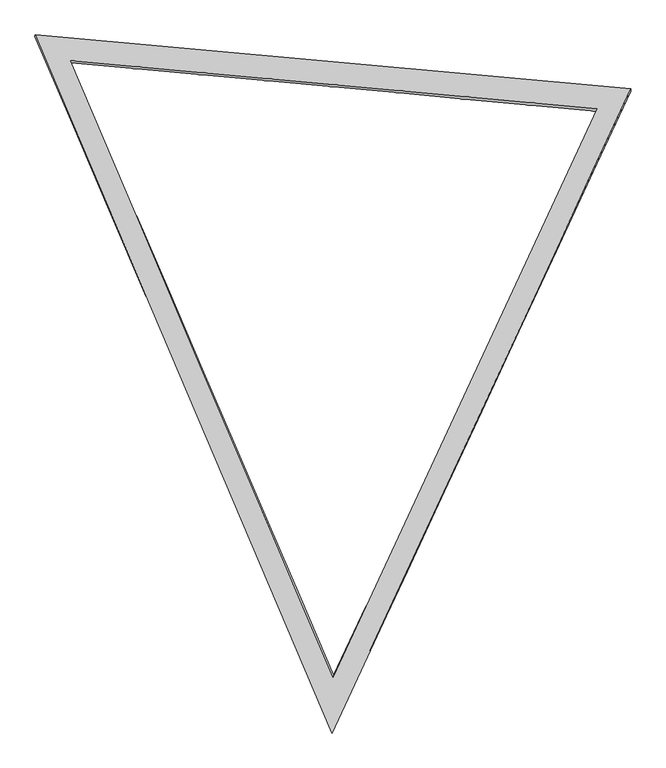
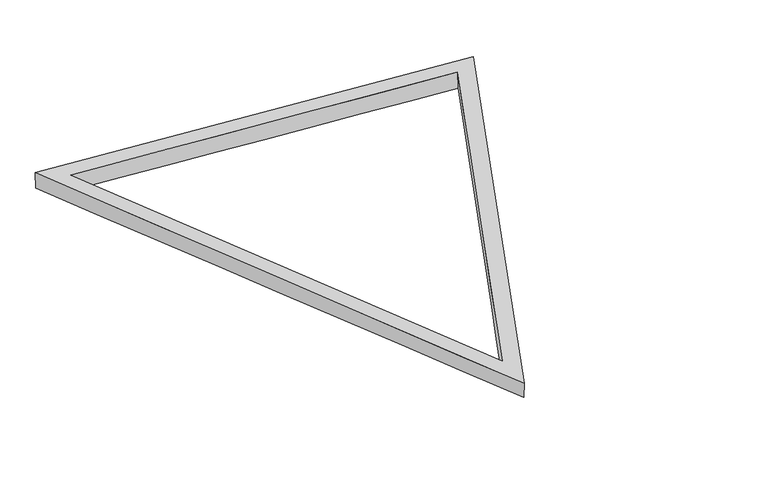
"""IFC4 building model written with IfcOpenShell, lengths in millimetres: plate geometry."""

import ifcopenshell
import ifcopenshell.guid

model = None  # the IFC model being written
_history = None  # IfcOwnerHistory: only IFC2X3 demands one
_inside = {}  # id of a spatial element -> (the spatial element, [elements in it])
_under = {}  # id of a project, library or spatial element -> (it, [spatial elements below it])
_declared = {}  # id of a project -> (the project, [libraries it declares])
_typed = {}  # id of a type object -> (the type object, [elements of that type])
_made_of = {}  # id of a material, layer set ... -> (it, [elements and type objects made of it])


def new_model(schema):
    """Start an empty IFC model of exactly this schema.

    Asked for "IFC4X3", IfcOpenShell would pick the latest addendum, in which some entities
    have other attributes; the version numbers below select the first issue.
    IFC2X3 requires an IfcOwnerHistory on every rooted entity: one is made here for all.
    """
    global model, _history
    if schema == "IFC4X3":
        model = ifcopenshell.file(schema_version=(4, 3, 0, 0))
    else:
        model = ifcopenshell.file(schema=schema)
    _inside.clear()
    _under.clear()
    _declared.clear()
    _typed.clear()
    _made_of.clear()
    _history = None
    if model.schema == "IFC2X3":
        org = make("IfcOrganization", Name="unknown")
        user = make(
            "IfcPersonAndOrganization",
            ThePerson=make("IfcPerson", FamilyName="unknown"),
            TheOrganization=org,
        )
        app = make(
            "IfcApplication",
            ApplicationDeveloper=org,
            Version="unknown",
            ApplicationFullName="unknown",
            ApplicationIdentifier="unknown",
        )
        _history = make(
            "IfcOwnerHistory",
            OwningUser=user,
            OwningApplication=app,
            ChangeAction="ADDED",
            CreationDate=0,
        )
    return model


def make(cls, **values):
    """One entity of the class cls with the attributes given. An attribute that is None is left unset."""
    return model.create_entity(
        cls, **{name: value for name, value in values.items() if value is not None}
    )


def rooted(cls, **values):
    """An entity with a GlobalId (a new one), such as an element, a storey or a relation."""
    return make(cls, GlobalId=ifcopenshell.guid.new(), OwnerHistory=_history, **values)


def si_unit(unit_type, name, prefix=None):
    """IfcSIUnit, for example si_unit("LENGTHUNIT", "METRE", prefix="MILLI")."""
    return make("IfcSIUnit", UnitType=unit_type, Prefix=prefix, Name=name)


def assignment(units):
    """IfcUnitAssignment: the units of a project."""
    return None if units is None else make("IfcUnitAssignment", Units=units)


def point(xyz):
    """IfcCartesianPoint."""
    return None if xyz is None else make("IfcCartesianPoint", Coordinates=xyz)


def direction(xyz):
    """IfcDirection."""
    return None if xyz is None else make("IfcDirection", DirectionRatios=xyz)


def frame(location, z_axis=None, x_axis=None):
    """IfcAxis2Placement3D, a coordinate frame: its origin and axes. An axis left out is left unset."""
    return make(
        "IfcAxis2Placement3D",
        Location=point(location),
        Axis=direction(z_axis),
        RefDirection=direction(x_axis),
    )


def origin():
    """The frame at (0, 0, 0) with its axes left unset."""
    return frame((0.0, 0.0, 0.0))


def place(relative_to, where):
    """IfcLocalPlacement: puts the frame where relative to a parent placement (None: the world)."""
    return make(
        "IfcLocalPlacement", PlacementRelTo=relative_to, RelativePlacement=where
    )


def context(
    kind, dimensions, precision=None, world=None, true_north=None, identifier=None
):
    """IfcGeometricRepresentationContext, for example the 3D "Model" context."""
    return make(
        "IfcGeometricRepresentationContext",
        ContextIdentifier=identifier,
        ContextType=kind,
        CoordinateSpaceDimension=dimensions,
        Precision=precision,
        WorldCoordinateSystem=world,
        TrueNorth=true_north,
    )


def project(units=None, contexts=None):
    """IfcProject with its units and contexts."""
    return rooted(
        "IfcProject",
        Name="project",
        RepresentationContexts=contexts,
        UnitsInContext=assignment(units),
    )


def spatial(cls, under=None, at=None, **own):
    """A site, building, storey or space (cls), placed at a placement, below another one or the project."""
    s = rooted(cls, ObjectPlacement=at, **own)
    if under is not None:
        _under.setdefault(under.id(), (under, []))[1].append(s)
    return s


def shape(context_of_items, identifier, shape_type, items):
    """IfcShapeRepresentation: the items that make up one representation, for example the "Body"."""
    return make(
        "IfcShapeRepresentation",
        ContextOfItems=context_of_items,
        RepresentationIdentifier=identifier,
        RepresentationType=shape_type,
        Items=items,
    )


def source(mapping_origin, context_of_items, identifier, shape_type, items):
    """IfcRepresentationMap: a shape defined once, which mapped items show again and again."""
    return make(
        "IfcRepresentationMap",
        MappingOrigin=mapping_origin,
        MappedRepresentation=shape(context_of_items, identifier, shape_type, items),
    )


def transform(
    local_origin,
    x_axis=None,
    y_axis=None,
    z_axis=None,
    scale=None,
    scale2=None,
    scale3=None,
    uniform=True,
):
    """IfcCartesianTransformationOperator3D, or its non-uniform kind. x_axis, y_axis, z_axis: its Axis1, 2, 3."""
    if uniform:
        return make(
            "IfcCartesianTransformationOperator3D",
            Axis1=direction(x_axis),
            Axis2=direction(y_axis),
            LocalOrigin=point(local_origin),
            Scale=scale,
            Axis3=direction(z_axis),
        )
    return make(
        "IfcCartesianTransformationOperator3DnonUniform",
        Axis1=direction(x_axis),
        Axis2=direction(y_axis),
        LocalOrigin=point(local_origin),
        Scale=scale,
        Axis3=direction(z_axis),
        Scale2=scale2,
        Scale3=scale3,
    )


def mapped(mapping_source, mapping_target):
    """IfcMappedItem: shows the shape of a source again, moved by a transform."""
    return make(
        "IfcMappedItem", MappingSource=mapping_source, MappingTarget=mapping_target
    )


def made_of(thing, what):
    """Note that an element or type object is made of a material, layer set ...; save() writes the relation."""
    if what is not None:
        _made_of.setdefault(what.id(), (what, []))[1].append(thing)
    return thing


def element(
    cls,
    number,
    at=None,
    inside=None,
    cuts=None,
    type_object=None,
    material=None,
    context=None,
    identifier="Body",
    shape_type=None,
    held_by="IfcProductDefinitionShape",
    body=None,
    shapes=None,
    **own,
):
    """One element of the class cls, such as IfcWall. Its Tag is "e" and its number.

    at: its placement. inside: the storey or other place that contains it. cuts: it is an
    opening in that element (IfcRelVoidsElement). A single representation is given by context,
    identifier, shape_type and body (its items); several are given by shapes. held_by: the class
    of the entity that holds the representations. save() writes the other relations.
    """
    e = rooted(cls, Tag="e%d" % number, ObjectPlacement=at, **own)
    if body is not None:
        shapes = [shape(context, identifier, shape_type, body)]
    if shapes is not None:
        e.Representation = make(held_by, Representations=shapes)
    if inside is not None:
        _inside.setdefault(inside.id(), (inside, []))[1].append(e)
    if cuts is not None:
        rooted(
            "IfcRelVoidsElement", RelatingBuildingElement=cuts, RelatedOpeningElement=e
        )
    if type_object is not None:
        _typed.setdefault(type_object.id(), (type_object, []))[1].append(e)
    return made_of(e, material)


def aggregate(whole, parts):
    """IfcRelAggregates: a whole, such as a stair, and the parts it consists of."""
    return rooted("IfcRelAggregates", RelatingObject=whole, RelatedObjects=parts)


def save(model, path):
    """Write the relations noted so far, then the file.

    IfcRelAggregates (storeys below a building ...), IfcRelContainedInSpatialStructure (elements
    in a storey), IfcRelDefinesByType, IfcRelAssociatesMaterial and IfcRelDeclares: one each for
    every whole, place, type object, material and project.
    """
    for whole, parts in _under.values():
        aggregate(whole, parts)
    for where, things in _inside.values():
        rooted(
            "IfcRelContainedInSpatialStructure",
            RelatedElements=things,
            RelatingStructure=where,
        )
    for kind, things in _typed.values():
        rooted("IfcRelDefinesByType", RelatedObjects=things, RelatingType=kind)
    for what, things in _made_of.values():
        rooted("IfcRelAssociatesMaterial", RelatedObjects=things, RelatingMaterial=what)
    for by, libraries in _declared.values():
        rooted("IfcRelDeclares", RelatingContext=by, RelatedDefinitions=libraries)
    model.write(path)


def plane_surface(at):
    """IfcPlane: the flat surface through the origin of the frame at, square to its z axis."""
    return make("IfcPlane", Position=at)


def spline_surface(u_degree, v_degree, points, u_multiplicities, v_multiplicities, u_knots, v_knots, weights=None):
    """IfcBSplineSurfaceWithKnots; with weights, IfcRationalBSplineSurfaceWithKnots. points: one row for each step in u."""
    own = dict(
        UDegree=u_degree,
        VDegree=v_degree,
        ControlPointsList=[[point(p) for p in row] for row in points],
        SurfaceForm="UNSPECIFIED",
        UClosed=False,
        VClosed=False,
        SelfIntersect=False,
        UMultiplicities=u_multiplicities,
        VMultiplicities=v_multiplicities,
        UKnots=u_knots,
        VKnots=v_knots,
        KnotSpec="UNSPECIFIED",
    )
    if weights is None:
        return make("IfcBSplineSurfaceWithKnots", **own)
    return make("IfcRationalBSplineSurfaceWithKnots", WeightsData=weights, **own)


def advanced_brep(points, edges, surfaces, faces):
    """IfcAdvancedBrep: a solid bounded by faces that lie on surfaces and meet in shared edges.

    An edge is (start, end): straight between two places in points (the first is 0);
    or (start, end, curve); or (start, end, curve, False) where it runs against its curve.
    A face is (place in surfaces, loops), or (place, loops, False) where it looks against
    its surface's normal. A loop lists edges by number (the first is 1), with a minus sign
    where the edge is run from its end to its start. The first loop is the outer one.
    """
    corners = [point(p) for p in points]
    vertices = [make("IfcVertexPoint", VertexGeometry=c) for c in corners]
    made = []
    for start, end, *more in edges:
        made.append(
            make(
                "IfcEdgeCurve",
                EdgeStart=vertices[start],
                EdgeEnd=vertices[end],
                EdgeGeometry=more[0] if more else make("IfcPolyline", Points=[corners[start], corners[end]]),
                SameSense=more[1] if len(more) > 1 else True,
            )
        )
    hull = []
    for where, loops, *sense in faces:
        bounds = []
        for j, loop in enumerate(loops):
            ring = [make("IfcOrientedEdge", EdgeElement=made[abs(k) - 1], Orientation=k > 0) for k in loop]
            bounds.append(
                make(
                    "IfcFaceOuterBound" if j == 0 else "IfcFaceBound",
                    Bound=make("IfcEdgeLoop", EdgeList=ring),
                    Orientation=True,
                )
            )
        hull.append(make("IfcAdvancedFace", Bounds=bounds, FaceSurface=surfaces[where], SameSense=sense[0] if sense else True))
    return make("IfcAdvancedBrep", Outer=make("IfcClosedShell", CfsFaces=hull))


def plate_5d799b91(model_context):
    return source(origin(), model_context, "Body", "AdvancedBrep", [
        advanced_brep(
        [(3753.251921, 7078.7811091, 0.0), (3753.0589044, 7093.2384914, 202.6731801), (6096.4615528, 1586.4831755, 202.094413), (6103.649809, 1603.8801866, 0.0), (8456.3264835, 6666.8171285, 202.0053449), (8454.0476969, 6645.0800117, 0.0), (6096.0, 1106.6013182, 0.0), (8760.2197789, 6820.8952054, 0.0), (8762.2695532, 6843.1122812, 201.971384), (6088.3340438, 1086.6449597, 202.072306), (3431.7802211, 7312.5034763, 0.0), (3433.0517551, 7326.2853684, 202.7281003)],
        [
            (0, 1),
            (1, 2),
            (2, 3),
            (3, 0),
            (2, 4),
            (4, 5),
            (5, 3),
            (0, 5),
            (4, 1),
            (6, 7),
            (7, 8),
            (8, 9),
            (9, 6),
            (7, 10),
            (10, 11),
            (11, 8),
            (9, 11),
            (10, 6),
        ],
        [
            spline_surface(1, 1, [[(3753.251921, 7078.7811091, 0.0), (6103.649809, 1603.8801866, 0.0)], [(3753.0589044, 7093.2384914, 202.6731801), (6096.4615528, 1586.4831755, 202.094413)]], [2, 2], [2, 2], [0.0, 1.0], [0.0, 1.0]),
            spline_surface(1, 1, [[(6103.649809, 1603.8801866, 0.0), (8454.0476969, 6645.0800117, 0.0)], [(6096.4615528, 1586.4831755, 202.094413), (8456.3264835, 6666.8171285, 202.0053449)]], [2, 2], [2, 2], [0.0, 1.0], [0.0, 1.0]),
            spline_surface(1, 1, [[(8454.0476969, 6645.0800117, 0.0), (3753.251921, 7078.7811091, 0.0)], [(8456.3264835, 6666.8171285, 202.0053449), (3753.0589044, 7093.2384914, 202.6731801)]], [2, 2], [2, 2], [0.0, 1.0], [0.0, 1.0]),
            spline_surface(1, 1, [[(6096.0, 1106.6013182, 0.0), (6088.3340438, 1086.6449597, 202.072306)], [(8760.2197789, 6820.8952054, 0.0), (8762.2695532, 6843.1122812, 201.971384)]], [2, 2], [2, 2], [0.0, 1.0], [0.0, 1.0]),
            spline_surface(1, 1, [[(8760.2197789, 6820.8952054, 0.0), (8762.2695532, 6843.1122812, 201.971384)], [(3431.7802211, 7312.5034763, 0.0), (3433.0517551, 7326.2853684, 202.7281003)]], [2, 2], [2, 2], [0.0, 1.0], [0.0, 1.0]),
            spline_surface(1, 1, [[(3431.7802211, 7312.5034763, 0.0), (3433.0517551, 7326.2853684, 202.7281003)], [(6096.0, 1106.6013182, 0.0), (6088.3340438, 1086.6449597, 202.072306)]], [2, 2], [2, 2], [0.0, 1.0], [0.0, 1.0]),
            plane_surface(frame((6094.551784, 5085.3475364, 202.2572635), z_axis=(0.00013778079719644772, -4.6468598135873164e-05, 0.9999999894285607), x_axis=(0.3915696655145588, -0.9201484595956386, -9.670879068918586e-05))),
            plane_surface(frame((6096.0, 5080.0, 0.0), z_axis=(0.0, 0.0, -1.0000000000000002), x_axis=(-0.39448807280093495, 0.9189010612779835, 0.0))),
        ],
        [
            (0, [[1, 2, 3, 4]]),
            (1, [[-3, 5, 6, 7]]),
            (2, [[-1, 8, -6, 9]]),
            (3, [[10, 11, 12, 13]]),
            (4, [[-11, 14, 15, 16]]),
            (5, [[-13, 17, -15, 18]]),
            (6, [[-12, -16, -17], [-2, -9, -5]]),
            (7, [[-10, -18, -14], [-4, -7, -8]]),
        ],
    ),
    ])


if __name__ == "__main__":
    model = new_model("IFC4")
    model_context = context("Model", 3, world=origin())
    ifc_project = project(units=[si_unit("LENGTHUNIT", "METRE", prefix="MILLI")], contexts=[model_context])
    site = spatial("IfcSite", under=ifc_project)
    building = spatial("IfcBuilding", under=site)
    placement = place(None, origin())
    plate_shape = plate_5d799b91(model_context)
    element("IfcPlate", 1, ObjectType="tn_cpanel_patbase_triangle_flat_seamless_frame_02_cylinder : tn_triangle_seamless_frame_t8\"xh8\"", at=placement, inside=building, context=model_context, shape_type="MappedRepresentation", body=[
        mapped(plate_shape, transform((0.0, 0.0, 0.0), x_axis=(1.0, 0.0, 0.0), y_axis=(0.0, 1.0, 0.0), z_axis=(0.0, 0.0, 1.0))),
    ])
    save(model, "model.ifc")
